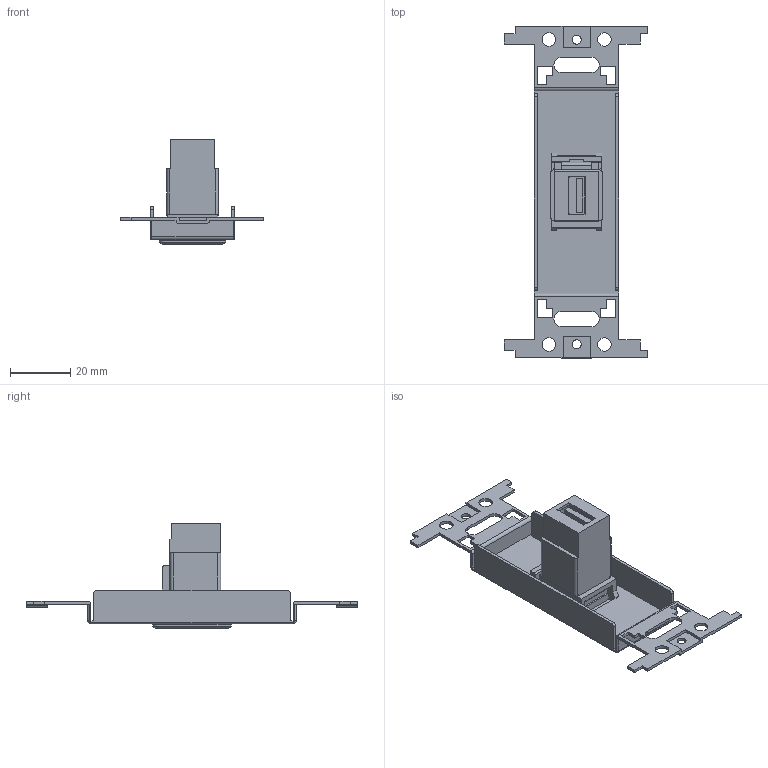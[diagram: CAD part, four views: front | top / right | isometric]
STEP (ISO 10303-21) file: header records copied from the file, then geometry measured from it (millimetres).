
FILE_DESCRIPTION(('FreeCAD Model'),'2;1');
FILE_NAME('Open CASCADE Shape Model','2026-09-10T14:26:49',(''),(''), 'Open CASCADE STEP processor 7.8','FreeCAD','Unknown');
FILE_SCHEMA(('AUTOMOTIVE_DESIGN { 1 0 10303 214 1 1 1 1 }'));
Length unit declared in the file: millimetre
Products named in the file (5): CMW_SIUSB3ACR_XX; P_200795_XX; P-200795; 3013BUS12xx; TB-027_210USB05N2BK_SD
Assembly tree (4 placements, depth 3):
  CMW_SIUSB3ACR_XX
    P_200795_XX
      P-200795
      3013BUS12xx
    TB-027_210USB05N2BK_SD
Bounding box: 47.6 x 110 x 35 mm (x, y, z)
Volume: 13797.4 mm3; surface area: 15496.6 mm2
Topology: 3 solids, 3 shells, 270 faces, 763 edges, 502 vertices
Faces by surface type: bspline 150, plane 88, cylinder 28, torus 4
Full cylindrical faces by diameter (mm): 3 x2, 4.5 x4
Entity records: 10575 total; most frequent: CARTESIAN_POINT 4650, ORIENTED_EDGE 1530, EDGE_CURVE 763, DIRECTION 657, VERTEX_POINT 502, B_SPLINE_CURVE_WITH_KNOTS 416, FACE_BOUND 307, EDGE_LOOP 307
